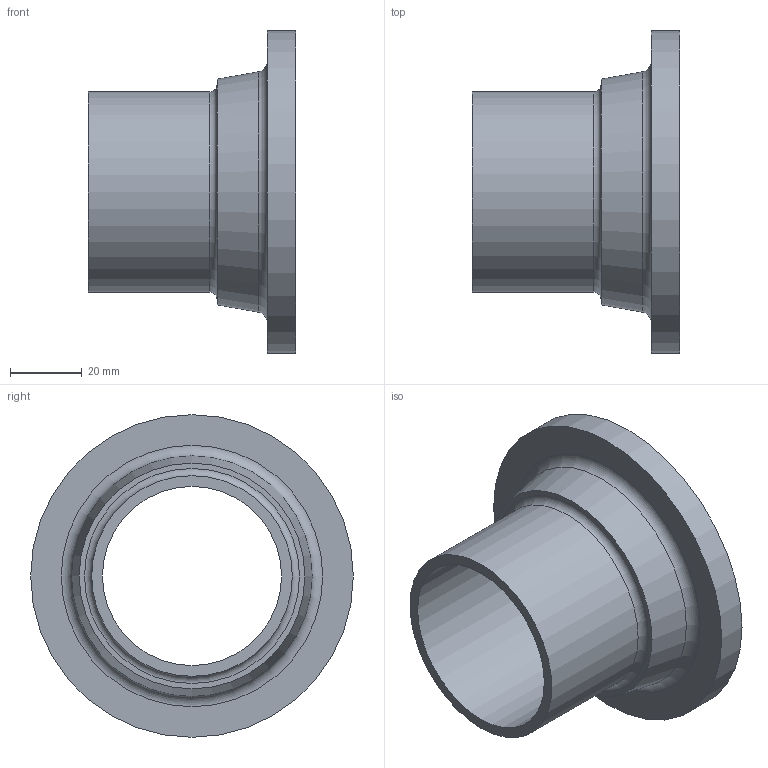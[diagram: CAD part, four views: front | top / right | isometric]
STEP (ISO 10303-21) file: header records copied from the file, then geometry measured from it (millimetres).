
FILE_DESCRIPTION((''),'2;1');
FILE_NAME('F:\Geberit_PE\Export\PE Vorschweissbund 2\stp\363744.stp','2011-03-17T21:45:17',(''),(''),'Autodesk Inventor 2011','Autodesk Inventor 2011','');
FILE_SCHEMA(('AUTOMOTIVE_DESIGN { 1 2 10303 214 0 1 1 1 }'));
Length unit declared in the file: millimetre
Products named in the file (1): 363744
Bounding box: 58 x 90 x 90 mm (x, y, z)
Volume: 72598.3 mm3; surface area: 29138.5 mm2
Topology: 1 solids, 1 shells, 19 faces, 31 edges, 19 vertices
Faces by surface type: plane 7, cone 7, cylinder 3, torus 2
Full cylindrical faces by diameter (mm): 50 x1, 56 x1, 90 x1
Entity records: 414 total; most frequent: DIRECTION 78, CARTESIAN_POINT 58, AXIS2_PLACEMENT_3D 39, ORIENTED_EDGE 38, EDGE_LOOP 38, VERTEX_POINT 19, CIRCLE 19, EDGE_CURVE 19
